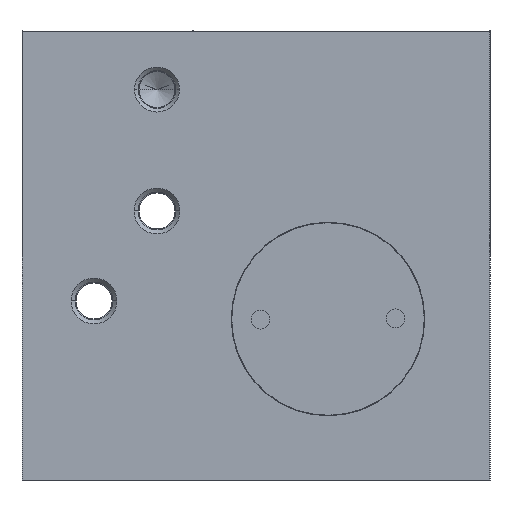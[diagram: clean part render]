
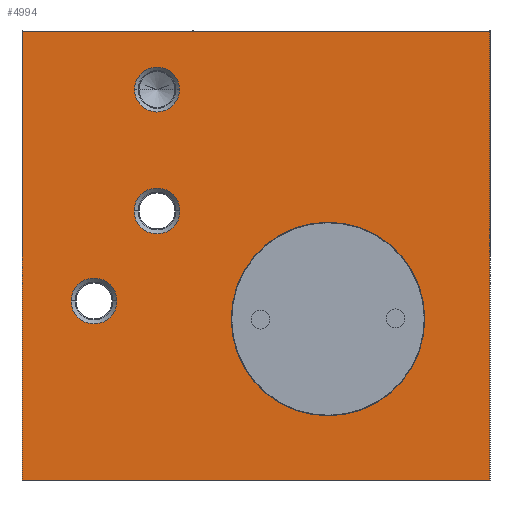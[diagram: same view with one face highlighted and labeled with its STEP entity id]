
A CAD part, left-side view. The second image highlights one B-rep face of the part: STEP entity #4994.
In plain terms, the highlighted planar face has unit normal (-1, 0, 0).
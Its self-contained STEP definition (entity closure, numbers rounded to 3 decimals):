
#1=DIRECTION('',(0.,0.,-1.));
#2=VECTOR('',#1,50.);
#3=CARTESIAN_POINT('',(-60.,0.,25.));
#4=LINE('',#3,#2);
#77=DIRECTION('',(0.,1.,0.));
#78=VECTOR('',#77,52.);
#79=CARTESIAN_POINT('',(-60.,-52.,-25.));
#80=LINE('',#79,#78);
#81=CARTESIAN_POINT('',(-60.,-34.,-7.));
#82=DIRECTION('',(1.,0.,0.));
#83=DIRECTION('',(0.,1.,0.));
#84=AXIS2_PLACEMENT_3D('',#81,#82,#83);
#86=CARTESIAN_POINT('',(-60.,-34.,-7.));
#87=DIRECTION('',(1.,0.,0.));
#88=DIRECTION('',(0.,-1.,0.));
#89=AXIS2_PLACEMENT_3D('',#86,#87,#88);
#91=CARTESIAN_POINT('',(-60.,-8.,-5.));
#92=DIRECTION('',(1.,0.,0.));
#93=DIRECTION('',(0.,-1.,0.));
#94=AXIS2_PLACEMENT_3D('',#91,#92,#93);
#96=CARTESIAN_POINT('',(-60.,-8.,-5.));
#97=DIRECTION('',(1.,0.,0.));
#98=DIRECTION('',(0.,1.,0.));
#99=AXIS2_PLACEMENT_3D('',#96,#97,#98);
#101=CARTESIAN_POINT('',(-60.,-15.,5.));
#102=DIRECTION('',(1.,0.,0.));
#103=DIRECTION('',(0.,-1.,0.));
#104=AXIS2_PLACEMENT_3D('',#101,#102,#103);
#106=CARTESIAN_POINT('',(-60.,-15.,5.));
#107=DIRECTION('',(1.,0.,0.));
#108=DIRECTION('',(0.,1.,0.));
#109=AXIS2_PLACEMENT_3D('',#106,#107,#108);
#111=CARTESIAN_POINT('',(-60.,-15.,18.5));
#112=DIRECTION('',(1.,0.,0.));
#113=DIRECTION('',(0.,-1.,0.));
#114=AXIS2_PLACEMENT_3D('',#111,#112,#113);
#116=CARTESIAN_POINT('',(-60.,-15.,18.5));
#117=DIRECTION('',(1.,0.,0.));
#118=DIRECTION('',(0.,1.,0.));
#119=AXIS2_PLACEMENT_3D('',#116,#117,#118);
#133=DIRECTION('',(0.,1.,0.));
#134=VECTOR('',#133,52.);
#135=CARTESIAN_POINT('',(-60.,-52.,25.));
#136=LINE('',#135,#134);
#305=DIRECTION('',(0.,0.,-1.));
#306=VECTOR('',#305,50.);
#307=CARTESIAN_POINT('',(-60.,-52.,25.));
#308=LINE('',#307,#306);
#4103=CARTESIAN_POINT('',(-60.,0.,25.));
#4104=CARTESIAN_POINT('',(-60.,0.,-25.));
#4105=VERTEX_POINT('',#4103);
#4106=VERTEX_POINT('',#4104);
#4111=CARTESIAN_POINT('',(-60.,-52.,25.));
#4112=CARTESIAN_POINT('',(-60.,-52.,-25.));
#4113=VERTEX_POINT('',#4111);
#4114=VERTEX_POINT('',#4112);
#4271=CARTESIAN_POINT('',(-60.,-23.25,-7.));
#4272=CARTESIAN_POINT('',(-60.,-44.75,-7.));
#4273=VERTEX_POINT('',#4271);
#4274=VERTEX_POINT('',#4272);
#4523=CARTESIAN_POINT('',(-60.,-10.55,-5.));
#4524=VERTEX_POINT('',#4523);
#4527=CARTESIAN_POINT('',(-60.,-5.45,-5.));
#4528=VERTEX_POINT('',#4527);
#4539=CARTESIAN_POINT('',(-60.,-17.55,5.));
#4540=VERTEX_POINT('',#4539);
#4543=CARTESIAN_POINT('',(-60.,-12.45,5.));
#4544=VERTEX_POINT('',#4543);
#4601=CARTESIAN_POINT('',(-60.,-17.5,18.5));
#4602=VERTEX_POINT('',#4601);
#4605=CARTESIAN_POINT('',(-60.,-12.5,18.5));
#4606=VERTEX_POINT('',#4605);
#4956=CARTESIAN_POINT('',(-60.,0.,-25.));
#4957=DIRECTION('',(-1.,0.,0.));
#4958=DIRECTION('',(0.,0.,1.));
#4959=AXIS2_PLACEMENT_3D('',#4956,#4957,#4958);
#4960=PLANE('',#4959);
#4961=ORIENTED_EDGE('',*,*,#4909,.F.);
#4963=ORIENTED_EDGE('',*,*,#4962,.F.);
#4965=ORIENTED_EDGE('',*,*,#4964,.T.);
#4967=ORIENTED_EDGE('',*,*,#4966,.T.);
#4968=EDGE_LOOP('',(#4961,#4963,#4965,#4967));
#4969=FACE_OUTER_BOUND('',#4968,.F.);
#4971=ORIENTED_EDGE('',*,*,#4970,.F.);
#4973=ORIENTED_EDGE('',*,*,#4972,.F.);
#4974=EDGE_LOOP('',(#4971,#4973));
#4975=FACE_BOUND('',#4974,.F.);
#4977=ORIENTED_EDGE('',*,*,#4976,.F.);
#4979=ORIENTED_EDGE('',*,*,#4978,.F.);
#4980=EDGE_LOOP('',(#4977,#4979));
#4981=FACE_BOUND('',#4980,.F.);
#4983=ORIENTED_EDGE('',*,*,#4982,.F.);
#4985=ORIENTED_EDGE('',*,*,#4984,.F.);
#4986=EDGE_LOOP('',(#4983,#4985));
#4987=FACE_BOUND('',#4986,.F.);
#4989=ORIENTED_EDGE('',*,*,#4988,.F.);
#4991=ORIENTED_EDGE('',*,*,#4990,.F.);
#4992=EDGE_LOOP('',(#4989,#4991));
#4993=FACE_BOUND('',#4992,.F.);
#4994=ADVANCED_FACE('',(#4969,#4975,#4981,#4987,#4993),#4960,.T.);
#85=CIRCLE('',#84,10.75);
#90=CIRCLE('',#89,10.75);
#95=CIRCLE('',#94,2.55);
#100=CIRCLE('',#99,2.55);
#105=CIRCLE('',#104,2.55);
#110=CIRCLE('',#109,2.55);
#115=CIRCLE('',#114,2.5);
#120=CIRCLE('',#119,2.5);
#4909=EDGE_CURVE('',#4105,#4106,#4,.T.);
#4962=EDGE_CURVE('',#4113,#4105,#136,.T.);
#4964=EDGE_CURVE('',#4113,#4114,#308,.T.);
#4966=EDGE_CURVE('',#4114,#4106,#80,.T.);
#4970=EDGE_CURVE('',#4273,#4274,#85,.T.);
#4972=EDGE_CURVE('',#4274,#4273,#90,.T.);
#4976=EDGE_CURVE('',#4524,#4528,#95,.T.);
#4978=EDGE_CURVE('',#4528,#4524,#100,.T.);
#4982=EDGE_CURVE('',#4540,#4544,#105,.T.);
#4984=EDGE_CURVE('',#4544,#4540,#110,.T.);
#4988=EDGE_CURVE('',#4602,#4606,#115,.T.);
#4990=EDGE_CURVE('',#4606,#4602,#120,.T.);
